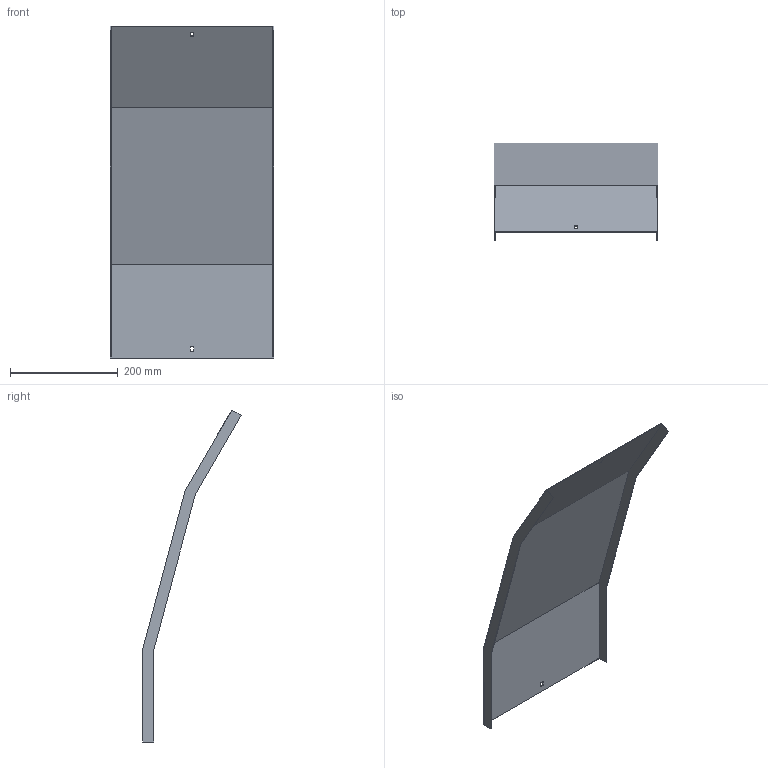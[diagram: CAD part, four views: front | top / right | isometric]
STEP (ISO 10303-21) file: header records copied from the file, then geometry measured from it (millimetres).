
FILE_DESCRIPTION (( 'STEP AP214' ), '1' );
FILE_NAME ('35N5F300.step', '2025-02-21T14:24:11', ( '' ), ( '' ), 'SwSTEP 2.0', 'SolidWorks 2023', '' );
FILE_SCHEMA (( 'AUTOMOTIVE_DESIGN' ));
Length unit declared in the file: millimetre
Products named in the file (1): 35N5F300
Bounding box: 303 x 182.13 x 615.07 mm (x, y, z)
Volume: 330082.2 mm3; surface area: 443137.8 mm2
Topology: 1 solids, 1 shells, 26 faces, 72 edges, 48 vertices
Faces by surface type: plane 26
Entity records: 847 total; most frequent: CARTESIAN_POINT 147, ORIENTED_EDGE 144, DIRECTION 126, VECTOR 72, LINE 72, EDGE_CURVE 72, VERTEX_POINT 48, EDGE_LOOP 30
